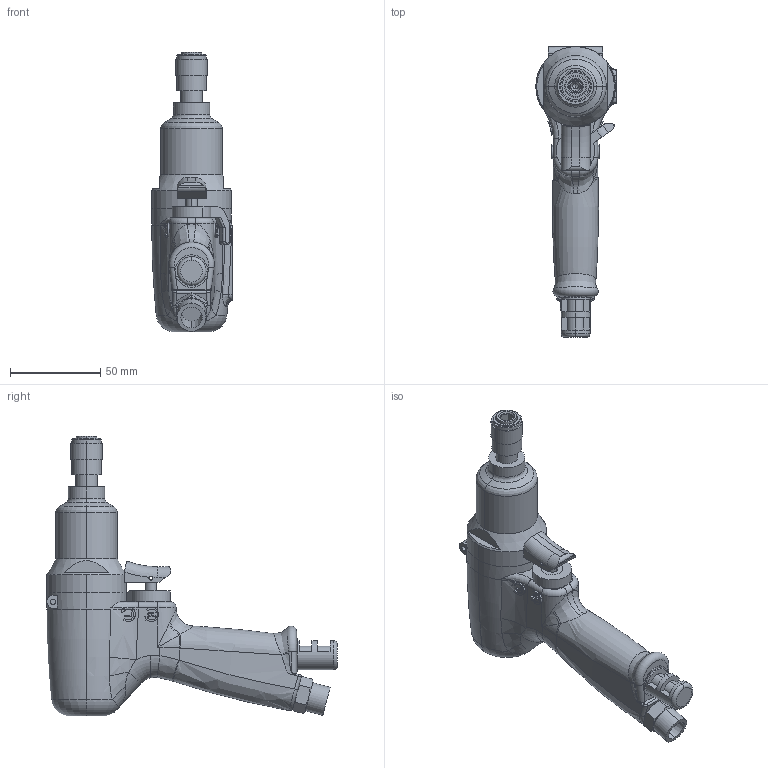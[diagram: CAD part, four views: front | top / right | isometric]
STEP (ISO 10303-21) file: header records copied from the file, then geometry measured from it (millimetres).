
FILE_DESCRIPTION (( 'STEP AP203' ), '1' );
FILE_NAME ('U-350D.STEP', '2006-09-04T00:25:59', ( '' ), ( '' ), 'SwSTEP 2.0', 'SolidWorks 2003240', '' );
FILE_SCHEMA (( 'CONFIG_CONTROL_DESIGN' ));
Length unit declared in the file: millimetre
Products named in the file (8): U-350D; 0113511_U-350D_蹬怮椔; 1771075_U-350D_蹬怮椔; 1963507_U-350D_蹬怮椔; 1924394_U-350D_蹬怮椔; 1770255_U-350D_蹬怮椔; 4802128_U-350D_蹬怮椔; 9810020_U-350D_蹬怮椔
Assembly tree (7 placements, depth 2):
  U-350D
    1963507_U-350D_蹬怮椔
    4802128_U-350D_蹬怮椔
    1771075_U-350D_蹬怮椔
    0113511_U-350D_蹬怮椔
    9810020_U-350D_蹬怮椔
    1924394_U-350D_蹬怮椔
    1770255_U-350D_蹬怮椔
Bounding box: 44.5 x 160.6 x 154.5 mm (x, y, z)
Volume: 249702.5 mm3; surface area: 43268 mm2
Topology: 7 solids, 7 shells, 628 faces, 1617 edges, 1030 vertices
Faces by surface type: plane 267, cylinder 149, bspline 148, torus 34, cone 28, sphere 2
Entity records: 51273 total; most frequent: CARTESIAN_POINT 36329, ORIENTED_EDGE 3208, DIRECTION 2482, EDGE_CURVE 1604, VERTEX_POINT 1027, AXIS2_PLACEMENT_3D 862, VECTOR 758, LINE 758
